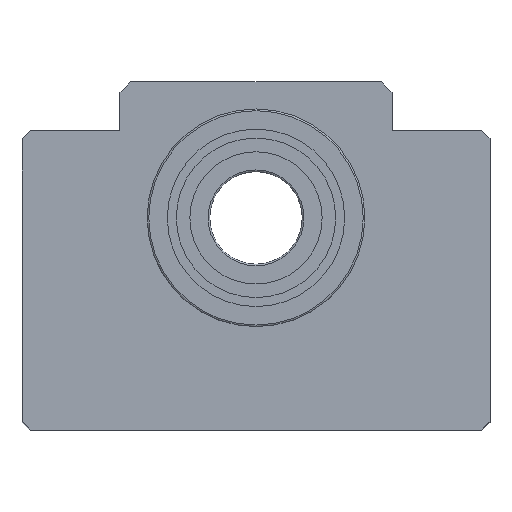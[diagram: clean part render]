
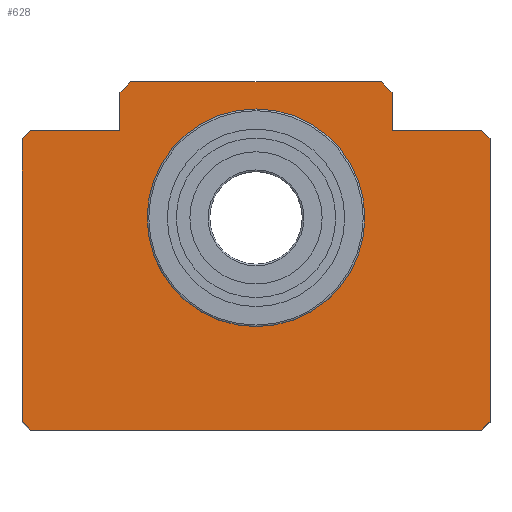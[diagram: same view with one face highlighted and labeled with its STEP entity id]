
A CAD part, top view. The second image highlights one B-rep face of the part: STEP entity #628.
In plain terms, the highlighted planar face has unit normal (0, 0, 1).
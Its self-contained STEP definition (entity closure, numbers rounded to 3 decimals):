
#52=CIRCLE('',#703,20.);
#152=ORIENTED_EDGE('',*,*,#268,.F.);
#153=ORIENTED_EDGE('',*,*,#221,.T.);
#154=ORIENTED_EDGE('',*,*,#225,.T.);
#155=ORIENTED_EDGE('',*,*,#230,.T.);
#156=ORIENTED_EDGE('',*,*,#233,.T.);
#157=ORIENTED_EDGE('',*,*,#236,.T.);
#158=ORIENTED_EDGE('',*,*,#239,.T.);
#159=ORIENTED_EDGE('',*,*,#243,.T.);
#160=ORIENTED_EDGE('',*,*,#246,.T.);
#161=ORIENTED_EDGE('',*,*,#249,.T.);
#162=ORIENTED_EDGE('',*,*,#252,.T.);
#163=ORIENTED_EDGE('',*,*,#255,.T.);
#164=ORIENTED_EDGE('',*,*,#258,.T.);
#165=ORIENTED_EDGE('',*,*,#262,.T.);
#166=ORIENTED_EDGE('',*,*,#265,.T.);
#221=EDGE_CURVE('',#293,#294,#351,.T.);
#225=EDGE_CURVE('',#294,#297,#355,.T.);
#230=EDGE_CURVE('',#297,#301,#358,.T.);
#233=EDGE_CURVE('',#301,#303,#361,.T.);
#236=EDGE_CURVE('',#303,#305,#364,.T.);
#239=EDGE_CURVE('',#305,#307,#367,.T.);
#243=EDGE_CURVE('',#307,#310,#370,.T.);
#246=EDGE_CURVE('',#310,#312,#373,.T.);
#249=EDGE_CURVE('',#312,#314,#376,.T.);
#252=EDGE_CURVE('',#314,#316,#379,.T.);
#255=EDGE_CURVE('',#316,#318,#382,.T.);
#258=EDGE_CURVE('',#318,#320,#385,.T.);
#262=EDGE_CURVE('',#320,#323,#388,.T.);
#265=EDGE_CURVE('',#323,#293,#391,.T.);
#268=EDGE_CURVE('',#326,#326,#52,.T.);
#293=VERTEX_POINT('',#954);
#294=VERTEX_POINT('',#955);
#297=VERTEX_POINT('',#963);
#301=VERTEX_POINT('',#973);
#303=VERTEX_POINT('',#979);
#305=VERTEX_POINT('',#985);
#307=VERTEX_POINT('',#991);
#310=VERTEX_POINT('',#999);
#312=VERTEX_POINT('',#1005);
#314=VERTEX_POINT('',#1011);
#316=VERTEX_POINT('',#1017);
#318=VERTEX_POINT('',#1023);
#320=VERTEX_POINT('',#1029);
#323=VERTEX_POINT('',#1037);
#326=VERTEX_POINT('',#1049);
#351=LINE('',#953,#393);
#355=LINE('',#962,#397);
#358=LINE('',#972,#400);
#361=LINE('',#978,#403);
#364=LINE('',#984,#406);
#367=LINE('',#990,#409);
#370=LINE('',#998,#412);
#373=LINE('',#1004,#415);
#376=LINE('',#1010,#418);
#379=LINE('',#1016,#421);
#382=LINE('',#1022,#424);
#385=LINE('',#1028,#427);
#388=LINE('',#1036,#430);
#391=LINE('',#1042,#433);
#393=VECTOR('',#761,1000.);
#397=VECTOR('',#767,1000.);
#400=VECTOR('',#776,1000.);
#403=VECTOR('',#781,1000.);
#406=VECTOR('',#786,1000.);
#409=VECTOR('',#791,1000.);
#412=VECTOR('',#798,1000.);
#415=VECTOR('',#803,1000.);
#418=VECTOR('',#808,1000.);
#421=VECTOR('',#813,1000.);
#424=VECTOR('',#818,1000.);
#427=VECTOR('',#823,1000.);
#430=VECTOR('',#830,1000.);
#433=VECTOR('',#835,1000.);
#455=EDGE_LOOP('',(#152));
#456=EDGE_LOOP('',(#153,#154,#155,#156,#157,#158,#159,#160,#161,#162,#163,
#164,#165,#166));
#531=FACE_BOUND('',#455,.T.);
#532=FACE_BOUND('',#456,.T.);
#602=PLANE('',#702);
#628=ADVANCED_FACE('',(#531,#532),#602,.T.);
#702=AXIS2_PLACEMENT_3D('',#1047,#841,#842);
#703=AXIS2_PLACEMENT_3D('',#1048,#843,#844);
#761=DIRECTION('',(0.,-1.,0.));
#767=DIRECTION('',(0.707,-0.707,0.));
#776=DIRECTION('',(1.,0.,0.));
#781=DIRECTION('',(0.707,0.707,0.));
#786=DIRECTION('',(0.,1.,0.));
#791=DIRECTION('',(-0.707,0.707,0.));
#798=DIRECTION('',(-1.,0.,0.));
#803=DIRECTION('',(0.,1.,0.));
#808=DIRECTION('',(-0.707,0.707,0.));
#813=DIRECTION('',(-1.,0.,0.));
#818=DIRECTION('',(-0.707,-0.707,0.));
#823=DIRECTION('',(0.,-1.,0.));
#830=DIRECTION('',(-1.,0.,0.));
#835=DIRECTION('',(-0.707,-0.707,0.));
#841=DIRECTION('',(0.,0.,1.));
#842=DIRECTION('',(1.,0.,0.));
#843=DIRECTION('',(0.,0.,1.));
#844=DIRECTION('',(1.,0.,0.));
#953=CARTESIAN_POINT('',(-43.,14.5,0.));
#954=CARTESIAN_POINT('',(-43.,14.5,0.));
#955=CARTESIAN_POINT('',(-43.,-37.5,0.));
#962=CARTESIAN_POINT('',(-43.,-37.5,0.));
#963=CARTESIAN_POINT('',(-41.5,-39.,0.));
#972=CARTESIAN_POINT('',(-41.5,-39.,0.));
#973=CARTESIAN_POINT('',(41.5,-39.,0.));
#978=CARTESIAN_POINT('',(41.5,-39.,0.));
#979=CARTESIAN_POINT('',(43.,-37.5,0.));
#984=CARTESIAN_POINT('',(43.,-37.5,0.));
#985=CARTESIAN_POINT('',(43.,14.5,0.));
#990=CARTESIAN_POINT('',(43.,14.5,0.));
#991=CARTESIAN_POINT('',(41.5,16.,0.));
#998=CARTESIAN_POINT('',(41.5,16.,0.));
#999=CARTESIAN_POINT('',(25.,16.,0.));
#1004=CARTESIAN_POINT('',(25.,16.,0.));
#1005=CARTESIAN_POINT('',(25.,23.,0.));
#1010=CARTESIAN_POINT('',(25.,23.,0.));
#1011=CARTESIAN_POINT('',(23.,25.,0.));
#1016=CARTESIAN_POINT('',(23.,25.,0.));
#1017=CARTESIAN_POINT('',(-23.,25.,0.));
#1022=CARTESIAN_POINT('',(-23.,25.,0.));
#1023=CARTESIAN_POINT('',(-25.,23.,0.));
#1028=CARTESIAN_POINT('',(-25.,23.,0.));
#1029=CARTESIAN_POINT('',(-25.,16.,0.));
#1036=CARTESIAN_POINT('',(-25.,16.,0.));
#1037=CARTESIAN_POINT('',(-41.5,16.,0.));
#1042=CARTESIAN_POINT('',(-41.5,16.,0.));
#1047=CARTESIAN_POINT('',(0.,0.,0.));
#1048=CARTESIAN_POINT('',(0.,0.,0.));
#1049=CARTESIAN_POINT('',(20.,0.,0.));
